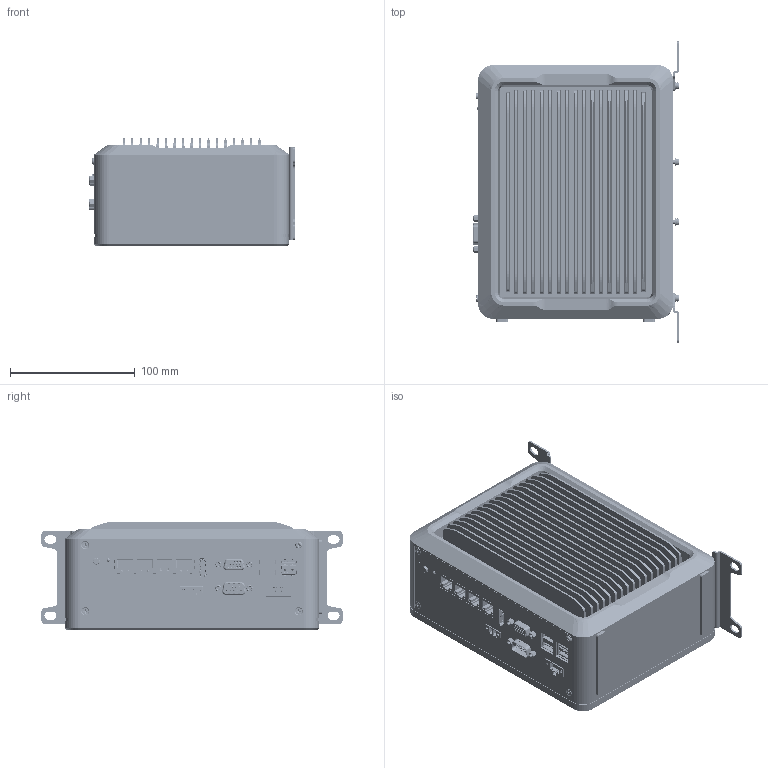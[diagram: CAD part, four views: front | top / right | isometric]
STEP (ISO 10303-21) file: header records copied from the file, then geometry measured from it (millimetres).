
FILE_DESCRIPTION((''),'2;1');
FILE_NAME('00-VC2000-TOP-ASSY_ASM_1_ASM','2023-12-19T21:43:27',('huguozhe'),(''),'CREO PARAMETRIC BY PTC INC, 2020044','CREO PARAMETRIC BY PTC INC, 2020044','');
FILE_SCHEMA(('AUTOMOTIVE_DESIGN { 1 0 10303 214 1 1 1 1 }'));
Products named in the file (43): DE-13-000889_1; DE-13-000789_ASM_1_ASM; DE-14-019995_1; DE-17-000326_1; DE-20-004981_ASM_1_ASM; 101400705_1; 100600943_1; 101301300_1; 101304772_1; 101301666_1; 101301626_1; 101305185_1_ASM; 101400636_1; 101305416_1_1; 101305416_1_2; 101305416_1_3; 101305416_1_4; 101305416_1_5; 101305416_1_ASM; MV20240_REV13_ASM_1_ASM; 101301082_1; 101300561_1; MV-23373REV10_ASM_1_ASM; VB3000-ZHU-PCB-TOP-ASSY_ASM_1_ASM; DE-11-063176_1; DE-19-003054_1; DE-20-020892_ASM_1_ASM; DE-13-000847_1; DE-13-000846_ASM_1_ASM; DE-13-000849_1; DE-13-000848_ASM_1_ASM; DE-11-028241_1; 8002-CLS-M3-1_1; DE-11-028241_ASM_1_ASM; DE-19-003139_1; DE-20-005209_ASM_1_ASM; DE-11-027802_1; SC-TWM3X6PM-BNI_1; SC-PSF0M3X6-NI_1; SC-KM3X5B-JMF_1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
Assembly tree (69 placements, depth 5):
  00-VC2000-TOP-ASSY_ASM_1_ASM
    DE-20-004981_ASM_1_ASM
      DE-13-000789_ASM_1_ASM
        DE-13-000889_1
      DE-14-019995_1  x2
      DE-17-000326_1  x2
    VB3000-ZHU-PCB-TOP-ASSY_ASM_1_ASM
      MV20240_REV13_ASM_1_ASM
        101400705_1
        100600943_1
        101301300_1
        101304772_1
        101301666_1
        101301626_1
        101305185_1_ASM
        101400636_1
        101305416_1_ASM
          101305416_1_1
          101305416_1_2
          101305416_1_3
          101305416_1_4
          101305416_1_5
      MV-23373REV10_ASM_1_ASM
        101301082_1
        101300561_1
    DE-20-020892_ASM_1_ASM
      DE-11-063176_1
      DE-19-003054_1
    DE-13-000846_ASM_1_ASM
      DE-13-000847_1
    DE-13-000848_ASM_1_ASM
      DE-13-000849_1
    DE-20-005209_ASM_1_ASM
      DE-11-028241_ASM_1_ASM
        DE-11-028241_1
        8002-CLS-M3-1_1  x4
      DE-19-003139_1
    DE-11-027802_1  x2
    SC-TWM3X6PM-BNI_1
    SC-PSF0M3X6-NI_1  x4
    SC-KM3X5B-JMF_1  x9
    SC-PM3X6T10B_1  x4
    SC-PSF0M3X6-SUS_1  x8
Bounding box: 165.55 x 241 x 86 mm (x, y, z)
Volume: 1966271.8 mm3; surface area: 413330.7 mm2
Topology: 57 solids, 169 shells, 9657 faces, 26466 edges, 17162 vertices
Faces by surface type: plane 5988, cylinder 2745, cone 424, bspline 195, extrusion 175, torus 77, sphere 53
Entity records: 347080 total; most frequent: CARTESIAN_POINT 104639, ORIENTED_EDGE 46429, DIRECTION 42353, EDGE_CURVE 23356, VECTOR 16291, LINE 16134, VERTEX_POINT 15246, AXIS2_PLACEMENT_3D 13031
